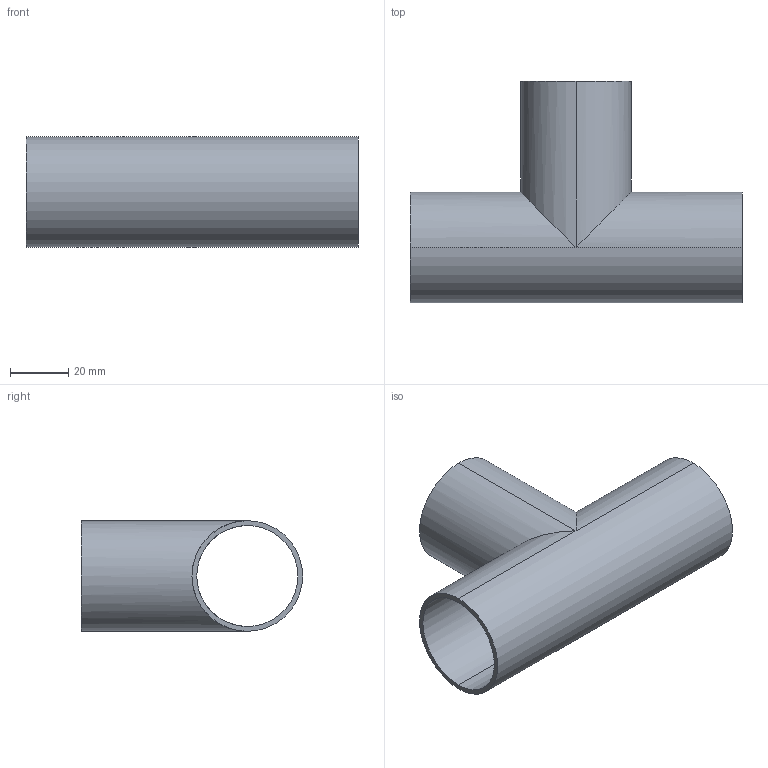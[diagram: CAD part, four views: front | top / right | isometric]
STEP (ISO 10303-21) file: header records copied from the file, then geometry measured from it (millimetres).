
FILE_DESCRIPTION (( 'STEP AP203' ), '1' );
FILE_NAME ('V7W1.5.STEP', '2018-05-11T14:52:56', ( 'vneprd' ), ( 'Microsoft' ), 'SwSTEP 2.0', 'SolidWorks 2014', '' );
FILE_SCHEMA (( 'CONFIG_CONTROL_DESIGN' ));
Length unit declared in the file: inch
Products named in the file (1): V7W1.5
Bounding box: 114.3 x 76.2 x 38.1 mm (x, y, z)
Volume: 28023.3 mm3; surface area: 34506.9 mm2
Topology: 1 solids, 1 shells, 13 faces, 28 edges, 16 vertices
Faces by surface type: cylinder 10, plane 3
Entity records: 437 total; most frequent: CARTESIAN_POINT 70, DIRECTION 64, ORIENTED_EDGE 56, EDGE_CURVE 28, AXIS2_PLACEMENT_3D 26, EDGE_LOOP 16, VERTEX_POINT 16, ADVANCED_FACE 13
